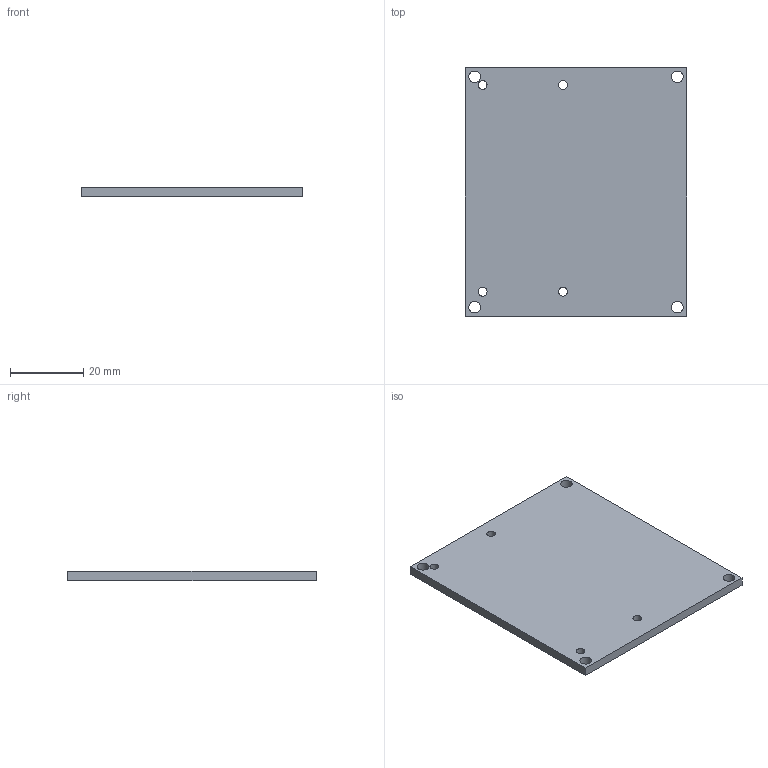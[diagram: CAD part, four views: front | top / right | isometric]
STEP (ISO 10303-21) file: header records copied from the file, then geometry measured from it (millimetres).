
FILE_DESCRIPTION(('FreeCAD Model'),'2;1');
FILE_NAME('Open CASCADE Shape Model','2026-09-11T14:18:25',( '' ),( '' ),'Open CASCADE STEP processor 7.8','FreeCAD','Unknown');
FILE_SCHEMA(('AUTOMOTIVE_DESIGN { 1 0 10303 214 1 1 1 1 }'));
Length unit declared in the file: millimetre
Products named in the file (1): Open CASCADE STEP translator 7.8 7
Bounding box: 60.5 x 68 x 2.5 mm (x, y, z)
Volume: 10159.3 mm3; surface area: 8945.9 mm2
Topology: 1 solids, 1 shells, 14 faces, 36 edges, 24 vertices
Faces by surface type: cylinder 8, plane 6
Full cylindrical faces by diameter (mm): 2.4 x4, 3.2 x4
Entity records: 478 total; most frequent: DIRECTION 82, CARTESIAN_POINT 75, ORIENTED_EDGE 72, EDGE_CURVE 36, AXIS2_PLACEMENT_3D 31, FACE_BOUND 30, EDGE_LOOP 30, VERTEX_POINT 24
